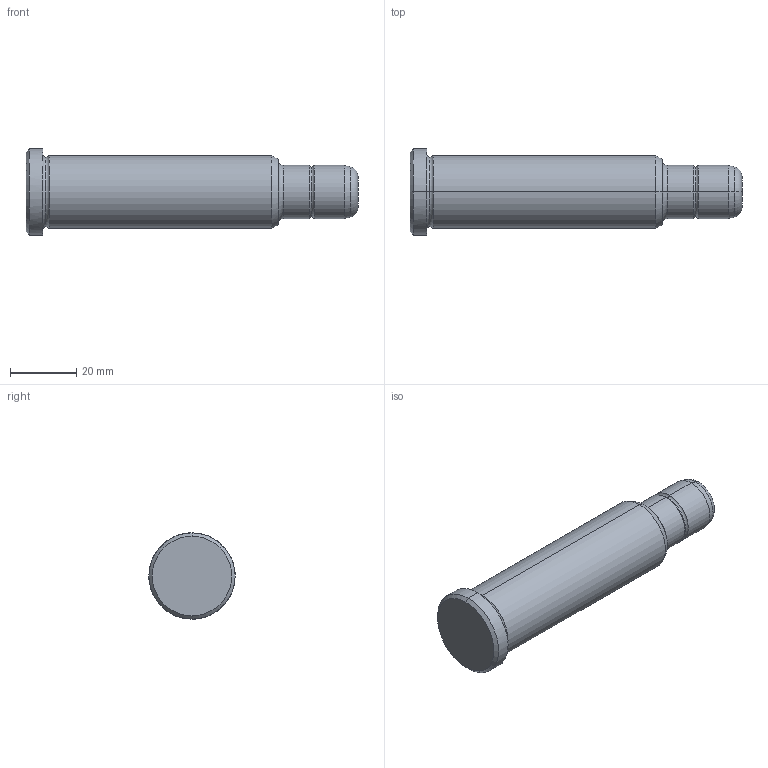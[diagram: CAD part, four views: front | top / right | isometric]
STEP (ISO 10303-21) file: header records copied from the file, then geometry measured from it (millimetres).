
FILE_DESCRIPTION(('CATIA V5 STEP Exchange'),'2;1');
FILE_NAME('C:\Users\Utente\Desktop\IO LAVORO\3D X SITO CF\X SITO\PLASTICA\351\351-16X76X100.stp','2021-08-18T12:50:20+00:00',('none'),('none'),'CATIA Version 5 Release 20 GA (IN-10)','CATIA V5 STEP AP203','none');
FILE_SCHEMA(('CONFIG_CONTROL_DESIGN'));
Length unit declared in the file: millimetre
Products named in the file (1): 351-16X76X100
Bounding box: 100 x 26 x 26 mm (x, y, z)
Volume: 34158 mm3; surface area: 7387 mm2
Topology: 1 solids, 1 shells, 30 faces, 86 edges, 60 vertices
Faces by surface type: torus 12, cylinder 8, cone 6, plane 4
Entity records: 1112 total; most frequent: CARTESIAN_POINT 289, ORIENTED_EDGE 172, DIRECTION 138, AXIS2_PLACEMENT_3D 95, EDGE_CURVE 86, CIRCLE 64, VERTEX_POINT 60, EDGE_LOOP 32
